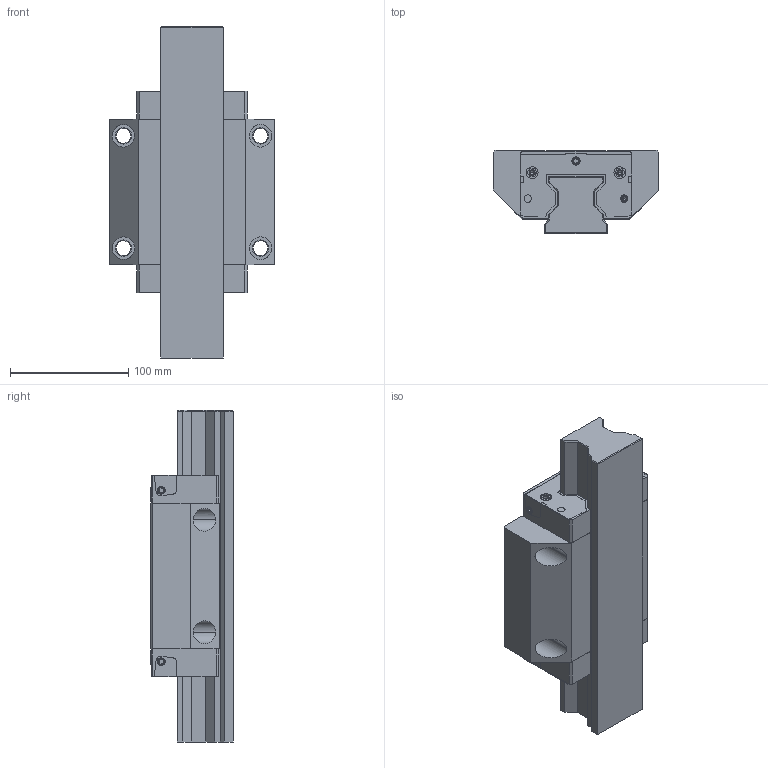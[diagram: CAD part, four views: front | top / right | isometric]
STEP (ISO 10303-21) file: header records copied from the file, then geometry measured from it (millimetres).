
FILE_DESCRIPTION((''),'2;1');
FILE_NAME('R1851_SIZE55_ASM','2021-07-06T04:27:35',('ac91sw'),(''),'CREO PARAMETRIC BY PTC INC, 2020044','CREO PARAMETRIC BY PTC INC, 2020044','');
FILE_SCHEMA(('AUTOMOTIVE_DESIGN { 1 0 10303 214 1 1 1 1 }'));
Length unit declared in the file: millimetre
Products named in the file (6): R1851_SIZE55_SKEL; R185152501; R185150702_Z; R913034226_Z; R1851_SIZE55_PSF; R1851_SIZE55_ASM
Assembly tree (11 placements, depth 2):
  R1851_SIZE55_ASM
    R1851_SIZE55_SKEL
    R185152501
    R185150702_Z  x2
    R913034226_Z  x6
    R1851_SIZE55_PSF
Bounding box: 140 x 70 x 280.65 mm (x, y, z)
Volume: 1338161.9 mm3; surface area: 204426 mm2
Topology: 10 solids, 26 shells, 544 faces, 1390 edges, 888 vertices
Faces by surface type: plane 338, cylinder 142, cone 64
Entity records: 15797 total; most frequent: CARTESIAN_POINT 1967, DIRECTION 1618, ORIENTED_EDGE 1536, EDGE_CURVE 786, PROPERTY_DEFINITION 699, REPRESENTATION 692, PROPERTY_DEFINITION_REPRESENTATION 692, DESCRIPTIVE_REPRESENTATION_ITEM 643
